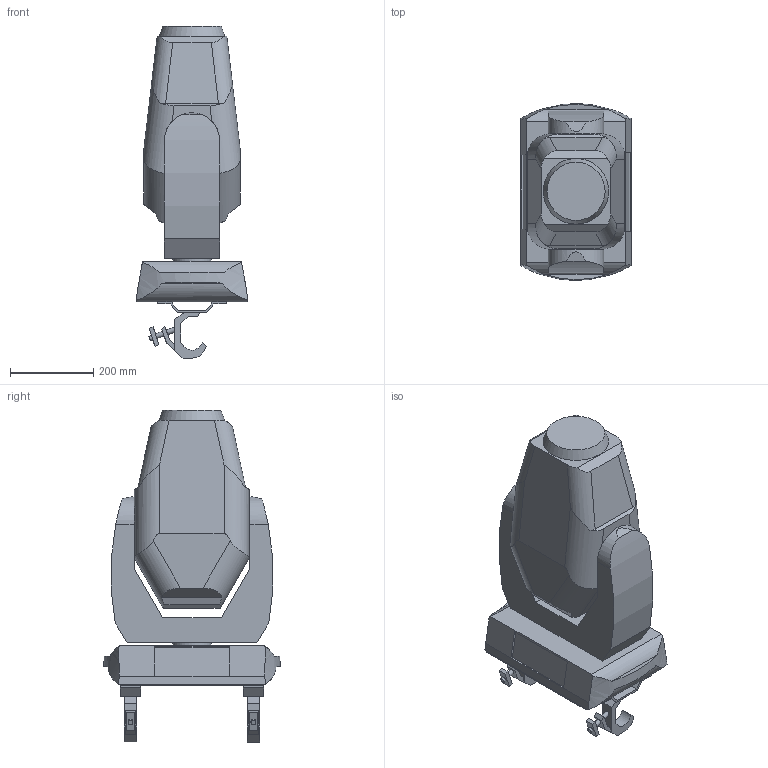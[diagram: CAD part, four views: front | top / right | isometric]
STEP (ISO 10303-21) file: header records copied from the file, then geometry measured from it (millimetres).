
FILE_DESCRIPTION( ( 'Unknown' ), '1' );
FILE_NAME( 'K:/Robin DL/01 Robin DLX Spot/08 3D_Symbols/3D_Robin DLX Spot_00.stp', 'Unknown', ( '*' ), ( '*' ), 'PSStep 15.0.49', 'SolidEdge', ' ' );
FILE_SCHEMA( ( 'AUTOMOTIVE_DESIGN { 1 0 10303 214 1 1 1 1 }' ) );
Length unit declared in the file: millimetre
Products named in the file (7): Omega_SlimClamp_00; Omega+SlimClamp; Clamp Doughty Slimline QT; Assem1; HlavaDLXS; RamenoDLXS; ZákladnaDLXS
Assembly tree (7 placements, depth 3):
  Assem1
    HlavaDLXS
    RamenoDLXS
    ZákladnaDLXS
    Omega_SlimClamp_00  x2
      Omega+SlimClamp
      Clamp Doughty Slimline QT
Bounding box: 267.69 x 426.08 x 799.2 mm (x, y, z)
Volume: 39393376 mm3; surface area: 1206190.5 mm2
Topology: 7 solids, 7 shells, 200 faces, 525 edges, 356 vertices
Faces by surface type: plane 149, cylinder 48, cone 3
Full cylindrical faces by diameter (mm): 11 x4, 12 x8, 13 x6, 70 x4, 92.6 x1, 94.485 x1
Entity records: 6204 total; most frequent: CARTESIAN_POINT 1263, DIRECTION 760, ORIENTED_EDGE 716, EDGE_CURVE 358, AXIS2_PLACEMENT_3D 267, VERTEX_POINT 250, LINE 226, VECTOR 226
